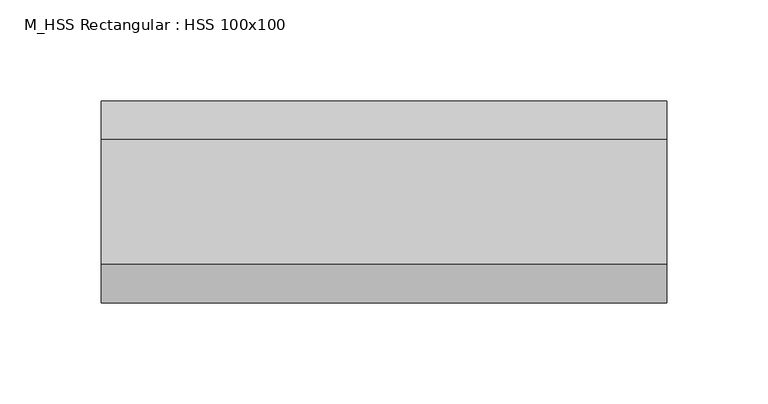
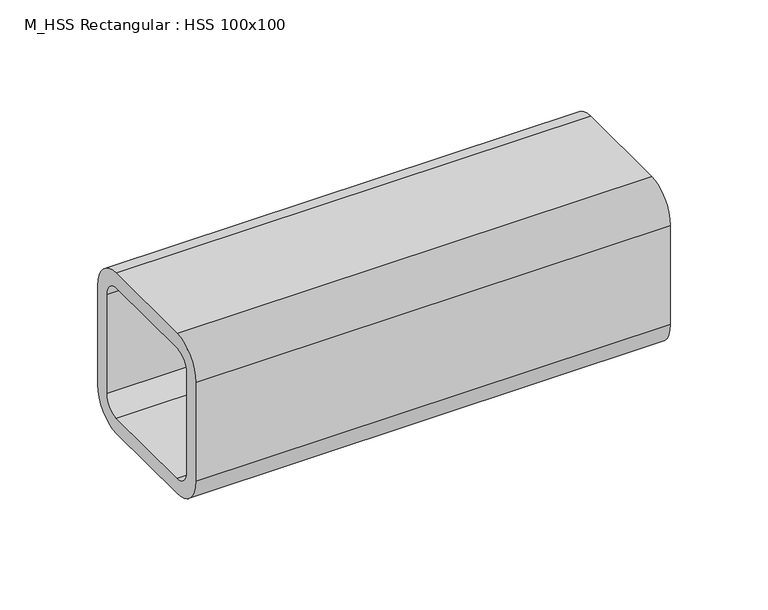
"""IFC4 building model written with IfcOpenShell, lengths in millimetres: beam geometry, M_HSS Rectangular : HSS 100x100."""

from ifc_helpers import new_model, si_unit, point, frame, frame_2d, origin, place, context, project, spatial, polyline, circle_curve, trimmed, segment, composite_curve, outline, extrude, source, transform, mapped, element, save


def m_hss_rectangular_hss_100x100_facdedd0(model_context):
    return source(origin(), model_context, "Body", "SweptSolid", [
        extrude(outline(composite_curve([segment(trimmed(circle_curve(frame_2d((-30.94, 30.94)), 19.06), [point((-50.0, 30.94))], [point((-30.94, 50.0))], False, "CARTESIAN"), True, "CONTINUOUS"), segment(polyline([(-30.94, 50.0), (30.94, 50.0)]), True, "CONTINUOUS"), segment(trimmed(circle_curve(frame_2d((30.94, 30.94)), 19.06), [point((30.94, 50.0))], [point((50.0, 30.94))], False, "CARTESIAN"), True, "CONTINUOUS"), segment(polyline([(50.0, 30.94), (50.0, -30.94)]), True, "CONTINUOUS"), segment(trimmed(circle_curve(frame_2d((30.94, -30.94)), 19.06), [point((50.0, -30.94))], [point((30.94, -50.0))], False, "CARTESIAN"), True, "CONTINUOUS"), segment(polyline([(30.94, -50.0), (-30.94, -50.0)]), True, "CONTINUOUS"), segment(trimmed(circle_curve(frame_2d((-30.94, -30.94)), 19.06), [point((-30.94, -50.0))], [point((-50.0, -30.94))], False, "CARTESIAN"), True, "CONTINUOUS"), segment(polyline([(-50.0, -30.94), (-50.0, 30.94)]), True, "CONTINUOUS")], self_intersect=False), holes=[composite_curve([segment(polyline([(30.94, 40.47), (-30.94, 40.47)]), True, "CONTINUOUS"), segment(trimmed(circle_curve(frame_2d((-30.94, 30.94)), 9.53), [point((-30.94, 40.47))], [point((-40.47, 30.94))], True, "CARTESIAN"), True, "CONTINUOUS"), segment(polyline([(-40.47, 30.94), (-40.47, -30.94)]), True, "CONTINUOUS"), segment(trimmed(circle_curve(frame_2d((-30.94, -30.94)), 9.53), [point((-40.47, -30.94))], [point((-30.94, -40.47))], True, "CARTESIAN"), True, "CONTINUOUS"), segment(polyline([(-30.94, -40.47), (30.94, -40.47)]), True, "CONTINUOUS"), segment(trimmed(circle_curve(frame_2d((30.94, -30.94)), 9.53), [point((30.94, -40.47))], [point((40.47, -30.94))], True, "CARTESIAN"), True, "CONTINUOUS"), segment(polyline([(40.47, -30.94), (40.47, 30.94)]), True, "CONTINUOUS"), segment(trimmed(circle_curve(frame_2d((30.94, 30.94)), 9.53), [point((40.47, 30.94))], [point((30.94, 40.47))], True, "CARTESIAN"), True, "CONTINUOUS")], self_intersect=False)]), frame((-140.0, 0.0, 0.0), z_axis=(1.0, 0.0, 0.0), x_axis=(0.0, 1.0, 0.0)), (0.0, 0.0, 1.0), 280.0),
    ])


if __name__ == "__main__":
    model = new_model("IFC4")
    model_context = context("Model", 3, world=origin())
    ifc_project = project(units=[si_unit("LENGTHUNIT", "METRE", prefix="MILLI")], contexts=[model_context])
    site = spatial("IfcSite", under=ifc_project)
    building = spatial("IfcBuilding", under=site)
    placement = place(None, origin())
    m_hss_rectangular_hss_100x100_shape = m_hss_rectangular_hss_100x100_facdedd0(model_context)
    element("IfcBeam", 1, ObjectType="M_HSS Rectangular : HSS 100x100", at=placement, inside=building, context=model_context, shape_type="MappedRepresentation", body=[
        mapped(m_hss_rectangular_hss_100x100_shape, transform((0.0, 0.0, 0.0), x_axis=(1.0, 0.0, 0.0), y_axis=(0.0, 1.0, 0.0), z_axis=(0.0, 0.0, 1.0))),
    ])
    save(model, "model.ifc")
